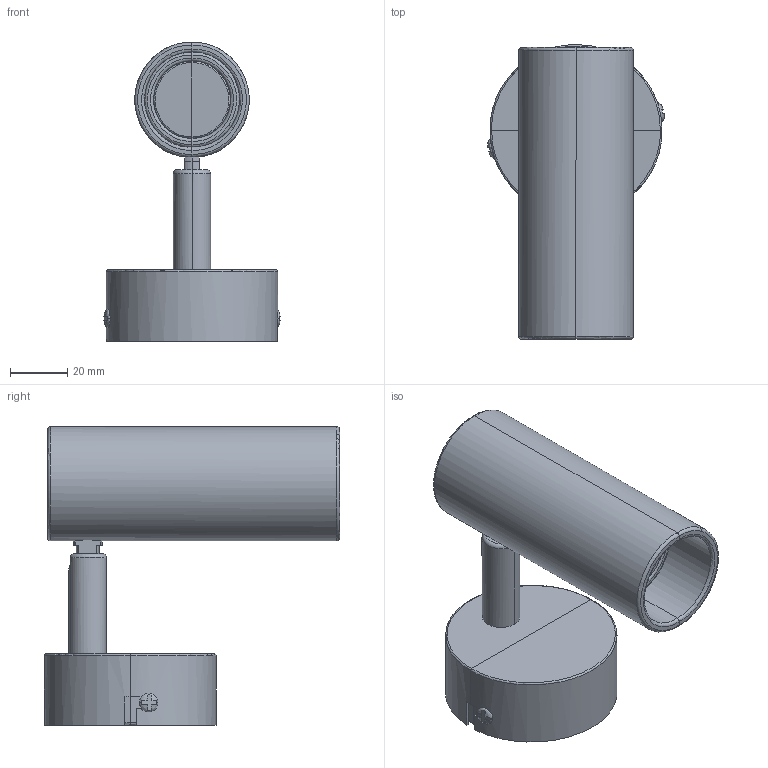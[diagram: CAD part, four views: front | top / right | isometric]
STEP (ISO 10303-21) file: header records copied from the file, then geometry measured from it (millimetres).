
FILE_DESCRIPTION(/* description */ (''),/* implementation_level */ '2;1');
FILE_NAME(/* name */ 'C:\Users\FrancoSartori\Documents\FARO\01_En Proceso\00_ORA\03_Publicación\29890.stp',/* time_stamp */ '2021-10-05T09:09:07+02:00',/* author */ ('FrancoSartori'),/* organization */ (''),/* preprocessor_version */ 'ST-DEVELOPER v18.1',/* originating_system */ 'AutoCAD Mechanical',/* authorisation */ '');
FILE_SCHEMA (('AUTOMOTIVE_DESIGN { 1 0 10303 214 3 1 1 }'));
Length unit declared in the file: millimetre
Products named in the file (2): Product; 29890 29891_ - structure-605460-Export
Assembly tree (1 placements, depth 2):
  Product
    29890 29891_ - structure-605460-Export
Bounding box: 61.71 x 103.13 x 104.5 mm (x, y, z)
Volume: 126990.1 mm3; surface area: 57605 mm2
Topology: 7 solids, 9 shells, 172 faces, 480 edges, 308 vertices
Faces by surface type: plane 83, cylinder 59, torus 26, bspline 4
Entity records: 9039 total; most frequent: CARTESIAN_POINT 4862, ORIENTED_EDGE 928, DIRECTION 748, EDGE_CURVE 480, VERTEX_POINT 308, AXIS2_PLACEMENT_3D 276, LINE 196, VECTOR 196
